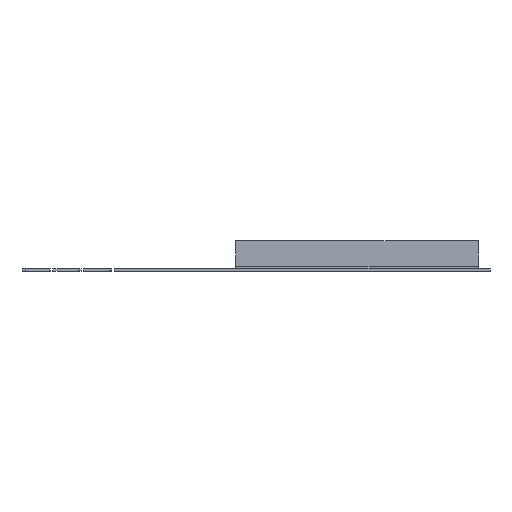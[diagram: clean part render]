
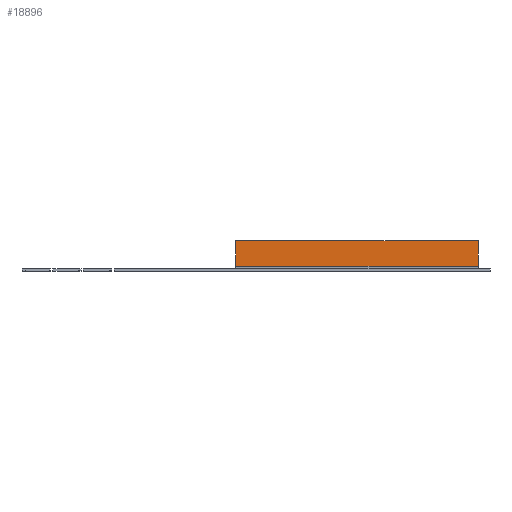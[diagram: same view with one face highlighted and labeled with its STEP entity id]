
A CAD part, left-side view. The second image highlights one B-rep face of the part: STEP entity #18896.
In plain terms, the highlighted planar face has unit normal (-1, 0, 0).
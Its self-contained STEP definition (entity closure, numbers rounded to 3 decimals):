
#666=CIRCLE('',#19978,3.);
#672=CIRCLE('',#19987,3.);
#673=CIRCLE('',#19989,3.);
#674=CIRCLE('',#19992,3.);
#675=CIRCLE('',#19994,3.);
#676=CIRCLE('',#19996,3.);
#1284=FACE_OUTER_BOUND('',#2281,.T.);
#2281=EDGE_LOOP('',(#13598,#13599,#13600,#13601,#13602,#13603,#13604,#13605,
#13606,#13607,#13608,#13609,#13610,#13611,#13612,#13613,#13614,#13615,#13616,
#13617,#13618,#13619));
#3707=LINE('',#27191,#6044);
#3728=LINE('',#27247,#6065);
#3736=LINE('',#27269,#6073);
#3737=LINE('',#27272,#6074);
#3739=LINE('',#27276,#6076);
#3741=LINE('',#27280,#6078);
#3743=LINE('',#27284,#6080);
#3745=LINE('',#27287,#6082);
#3746=LINE('',#27290,#6083);
#3748=LINE('',#27293,#6085);
#3749=LINE('',#27295,#6086);
#3750=LINE('',#27298,#6087);
#3752=LINE('',#27301,#6089);
#3753=LINE('',#27303,#6090);
#3754=LINE('',#27306,#6091);
#3756=LINE('',#27309,#6093);
#6044=VECTOR('',#22033,10.);
#6065=VECTOR('',#22076,10.);
#6073=VECTOR('',#22098,10.);
#6074=VECTOR('',#22101,10.);
#6076=VECTOR('',#22105,10.);
#6078=VECTOR('',#22109,10.);
#6080=VECTOR('',#22113,10.);
#6082=VECTOR('',#22117,10.);
#6083=VECTOR('',#22120,10.);
#6085=VECTOR('',#22124,10.);
#6086=VECTOR('',#22127,10.);
#6087=VECTOR('',#22130,10.);
#6089=VECTOR('',#22134,10.);
#6090=VECTOR('',#22137,10.);
#6091=VECTOR('',#22140,10.);
#6093=VECTOR('',#22144,10.);
#8319=VERTEX_POINT('',#27181);
#8320=VERTEX_POINT('',#27183);
#8322=VERTEX_POINT('',#27189);
#8342=VERTEX_POINT('',#27233);
#8343=VERTEX_POINT('',#27235);
#8344=VERTEX_POINT('',#27239);
#8345=VERTEX_POINT('',#27241);
#8346=VERTEX_POINT('',#27245);
#8347=VERTEX_POINT('',#27249);
#8348=VERTEX_POINT('',#27251);
#8349=VERTEX_POINT('',#27255);
#8350=VERTEX_POINT('',#27257);
#8351=VERTEX_POINT('',#27261);
#8352=VERTEX_POINT('',#27263);
#8353=VERTEX_POINT('',#27267);
#8354=VERTEX_POINT('',#27271);
#8355=VERTEX_POINT('',#27275);
#8356=VERTEX_POINT('',#27279);
#8357=VERTEX_POINT('',#27283);
#8358=VERTEX_POINT('',#27289);
#8359=VERTEX_POINT('',#27297);
#8360=VERTEX_POINT('',#27305);
#10317=EDGE_CURVE('',#8319,#8320,#666,.T.);
#10321=EDGE_CURVE('',#8319,#8322,#3707,.T.);
#10343=EDGE_CURVE('',#8342,#8343,#672,.T.);
#10346=EDGE_CURVE('',#8344,#8345,#673,.T.);
#10349=EDGE_CURVE('',#8344,#8346,#3728,.T.);
#10351=EDGE_CURVE('',#8347,#8348,#674,.T.);
#10354=EDGE_CURVE('',#8349,#8350,#675,.T.);
#10357=EDGE_CURVE('',#8352,#8351,#676,.T.);
#10360=EDGE_CURVE('',#8351,#8353,#3736,.T.);
#10361=EDGE_CURVE('',#8354,#8352,#3737,.T.);
#10363=EDGE_CURVE('',#8355,#8354,#3739,.F.);
#10365=EDGE_CURVE('',#8356,#8355,#3741,.T.);
#10367=EDGE_CURVE('',#8357,#8356,#3743,.F.);
#10369=EDGE_CURVE('',#8342,#8357,#3745,.T.);
#10370=EDGE_CURVE('',#8358,#8343,#3746,.T.);
#10372=EDGE_CURVE('',#8322,#8358,#3748,.T.);
#10373=EDGE_CURVE('',#8347,#8320,#3749,.T.);
#10374=EDGE_CURVE('',#8359,#8348,#3750,.T.);
#10376=EDGE_CURVE('',#8346,#8359,#3752,.T.);
#10377=EDGE_CURVE('',#8349,#8345,#3753,.T.);
#10378=EDGE_CURVE('',#8360,#8350,#3754,.T.);
#10380=EDGE_CURVE('',#8353,#8360,#3756,.T.);
#13598=ORIENTED_EDGE('',*,*,#10317,.F.);
#13599=ORIENTED_EDGE('',*,*,#10321,.T.);
#13600=ORIENTED_EDGE('',*,*,#10372,.T.);
#13601=ORIENTED_EDGE('',*,*,#10370,.T.);
#13602=ORIENTED_EDGE('',*,*,#10343,.F.);
#13603=ORIENTED_EDGE('',*,*,#10369,.T.);
#13604=ORIENTED_EDGE('',*,*,#10367,.T.);
#13605=ORIENTED_EDGE('',*,*,#10365,.T.);
#13606=ORIENTED_EDGE('',*,*,#10363,.T.);
#13607=ORIENTED_EDGE('',*,*,#10361,.T.);
#13608=ORIENTED_EDGE('',*,*,#10357,.T.);
#13609=ORIENTED_EDGE('',*,*,#10360,.T.);
#13610=ORIENTED_EDGE('',*,*,#10380,.T.);
#13611=ORIENTED_EDGE('',*,*,#10378,.T.);
#13612=ORIENTED_EDGE('',*,*,#10354,.F.);
#13613=ORIENTED_EDGE('',*,*,#10377,.T.);
#13614=ORIENTED_EDGE('',*,*,#10346,.F.);
#13615=ORIENTED_EDGE('',*,*,#10349,.T.);
#13616=ORIENTED_EDGE('',*,*,#10376,.T.);
#13617=ORIENTED_EDGE('',*,*,#10374,.T.);
#13618=ORIENTED_EDGE('',*,*,#10351,.F.);
#13619=ORIENTED_EDGE('',*,*,#10373,.T.);
#18049=PLANE('',#20011);
#18896=ADVANCED_FACE('',(#1284),#18049,.T.);
#19978=AXIS2_PLACEMENT_3D('',#27184,#22026,#22027);
#19987=AXIS2_PLACEMENT_3D('',#27236,#22064,#22065);
#19989=AXIS2_PLACEMENT_3D('',#27242,#22070,#22071);
#19992=AXIS2_PLACEMENT_3D('',#27252,#22080,#22081);
#19994=AXIS2_PLACEMENT_3D('',#27258,#22086,#22087);
#19996=AXIS2_PLACEMENT_3D('',#27264,#22092,#22093);
#20011=AXIS2_PLACEMENT_3D('',#27310,#22145,#22146);
#22026=DIRECTION('center_axis',(-1.,0.,0.));
#22027=DIRECTION('ref_axis',(0.,0.,-1.));
#22033=DIRECTION('',(0.,0.,-1.));
#22064=DIRECTION('center_axis',(-1.,0.,0.));
#22065=DIRECTION('ref_axis',(0.,0.,-1.));
#22070=DIRECTION('center_axis',(-1.,0.,0.));
#22071=DIRECTION('ref_axis',(0.,0.,-1.));
#22076=DIRECTION('',(0.,0.,-1.));
#22080=DIRECTION('center_axis',(-1.,0.,0.));
#22081=DIRECTION('ref_axis',(0.,0.,-1.));
#22086=DIRECTION('center_axis',(-1.,0.,0.));
#22087=DIRECTION('ref_axis',(0.,0.,-1.));
#22092=DIRECTION('center_axis',(1.,0.,0.));
#22093=DIRECTION('ref_axis',(0.,0.,-1.));
#22098=DIRECTION('',(0.,0.,-1.));
#22101=DIRECTION('',(0.,-1.,0.));
#22105=DIRECTION('',(0.,0.,1.));
#22109=DIRECTION('',(0.,1.,0.));
#22113=DIRECTION('',(0.,0.,-1.));
#22117=DIRECTION('',(0.,-1.,0.));
#22120=DIRECTION('',(0.,0.,1.));
#22124=DIRECTION('',(0.,-1.,0.));
#22127=DIRECTION('',(0.,-1.,0.));
#22130=DIRECTION('',(0.,0.,1.));
#22134=DIRECTION('',(0.,-1.,0.));
#22137=DIRECTION('',(0.,-1.,0.));
#22140=DIRECTION('',(0.,0.,1.));
#22144=DIRECTION('',(0.,-1.,0.));
#22145=DIRECTION('center_axis',(-1.,0.,0.));
#22146=DIRECTION('ref_axis',(0.,0.,1.));
#27181=CARTESIAN_POINT('',(-861.5,112.436,-6.));
#27183=CARTESIAN_POINT('',(-861.5,112.436,0.));
#27184=CARTESIAN_POINT('Origin',(-861.5,112.436,-3.));
#27189=CARTESIAN_POINT('',(-861.5,112.436,-13.));
#27191=CARTESIAN_POINT('',(-861.5,112.436,0.));
#27233=CARTESIAN_POINT('',(-861.5,62.166,0.));
#27235=CARTESIAN_POINT('',(-861.5,62.166,-6.));
#27236=CARTESIAN_POINT('Origin',(-861.5,62.166,-3.));
#27239=CARTESIAN_POINT('',(-861.5,672.436,-6.));
#27241=CARTESIAN_POINT('',(-861.5,672.436,0.));
#27242=CARTESIAN_POINT('Origin',(-861.5,672.436,-3.));
#27245=CARTESIAN_POINT('',(-861.5,672.436,-13.));
#27247=CARTESIAN_POINT('',(-861.5,672.436,0.));
#27249=CARTESIAN_POINT('',(-861.5,622.166,0.));
#27251=CARTESIAN_POINT('',(-861.5,622.166,-6.));
#27252=CARTESIAN_POINT('Origin',(-861.5,622.166,-3.));
#27255=CARTESIAN_POINT('',(-861.5,1182.166,0.));
#27257=CARTESIAN_POINT('',(-861.5,1182.166,-6.));
#27258=CARTESIAN_POINT('Origin',(-861.5,1182.166,-3.));
#27261=CARTESIAN_POINT('',(-861.5,1232.436,-6.));
#27263=CARTESIAN_POINT('',(-861.5,1232.436,0.));
#27264=CARTESIAN_POINT('Origin',(-861.5,1232.436,-3.));
#27267=CARTESIAN_POINT('',(-861.5,1232.436,-13.));
#27269=CARTESIAN_POINT('',(-861.5,1232.436,0.));
#27271=CARTESIAN_POINT('',(-861.5,1270.,0.));
#27272=CARTESIAN_POINT('',(-861.5,1299.718,0.));
#27275=CARTESIAN_POINT('',(-861.5,1270.,132.));
#27276=CARTESIAN_POINT('',(-861.5,1270.,73.25));
#27279=CARTESIAN_POINT('',(-861.5,30.,132.));
#27280=CARTESIAN_POINT('',(-861.5,0.,132.));
#27283=CARTESIAN_POINT('',(-861.5,30.,0.));
#27284=CARTESIAN_POINT('',(-861.5,30.,22.25));
#27287=CARTESIAN_POINT('',(-861.5,62.166,0.));
#27289=CARTESIAN_POINT('',(-861.5,62.166,-13.));
#27290=CARTESIAN_POINT('',(-861.5,62.166,-13.));
#27293=CARTESIAN_POINT('',(-861.5,112.436,-13.));
#27295=CARTESIAN_POINT('',(-861.5,622.166,0.));
#27297=CARTESIAN_POINT('',(-861.5,622.166,-13.));
#27298=CARTESIAN_POINT('',(-861.5,622.166,-13.));
#27301=CARTESIAN_POINT('',(-861.5,672.436,-13.));
#27303=CARTESIAN_POINT('',(-861.5,1182.166,0.));
#27305=CARTESIAN_POINT('',(-861.5,1182.166,-13.));
#27306=CARTESIAN_POINT('',(-861.5,1182.166,-13.));
#27309=CARTESIAN_POINT('',(-861.5,1232.436,-13.));
#27310=CARTESIAN_POINT('Origin',(-861.5,650.,44.5));
